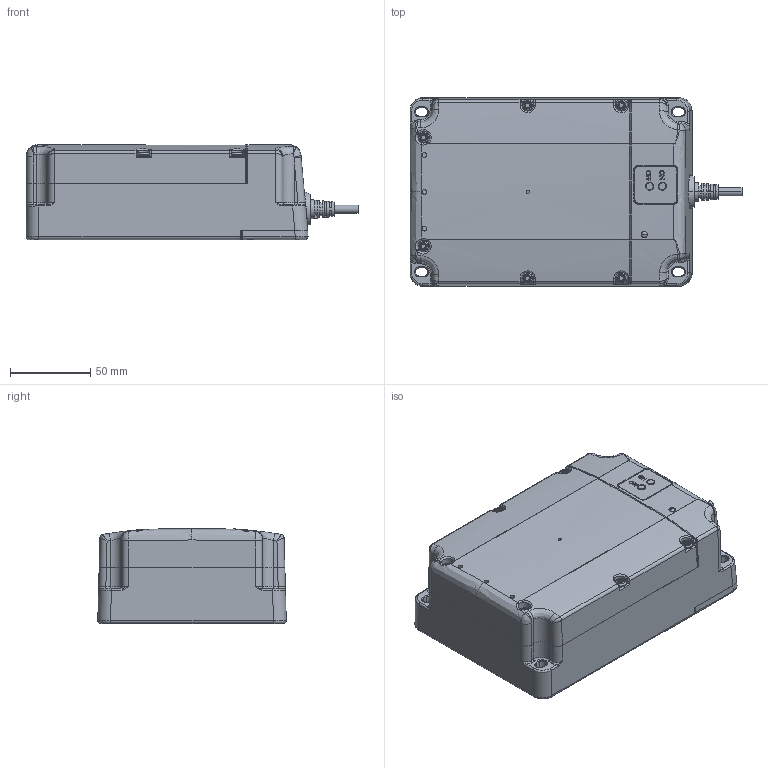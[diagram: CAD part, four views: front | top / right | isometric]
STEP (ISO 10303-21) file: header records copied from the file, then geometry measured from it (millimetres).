
FILE_DESCRIPTION (( 'STEP AP203' ), '1' );
FILE_NAME ('3D_TBB2.STEP', '2021-07-12T07:01:43', ( '' ), ( '' ), 'SwSTEP 2.0', 'SolidWorks 2015', '' );
FILE_SCHEMA (( 'CONFIG_CONTROL_DESIGN' ));
Products named in the file (1): 3D_TBB2
Bounding box: 207.5 x 117.78 x 59.55 mm (x, y, z)
Volume: 1147406.4 mm3; surface area: 127541.2 mm2
Topology: 15 solids, 16 shells, 1073 faces, 2797 edges, 1793 vertices
Faces by surface type: cylinder 448, plane 363, bspline 238, cone 24
Entity records: 43531 total; most frequent: CARTESIAN_POINT 19506, ORIENTED_EDGE 5554, DIRECTION 4305, EDGE_CURVE 2777, VERTEX_POINT 1793, AXIS2_PLACEMENT_3D 1562, VECTOR 1181, LINE 1181
